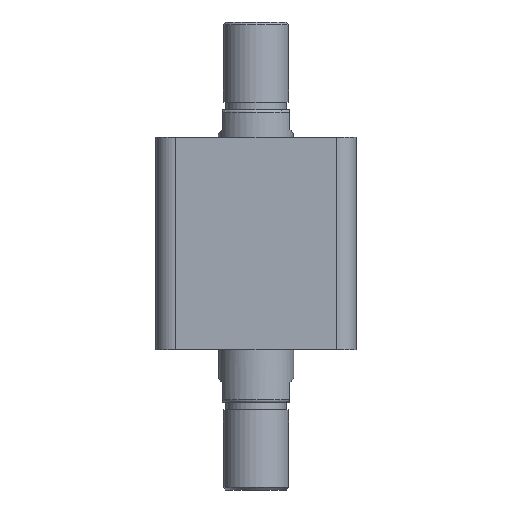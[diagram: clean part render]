
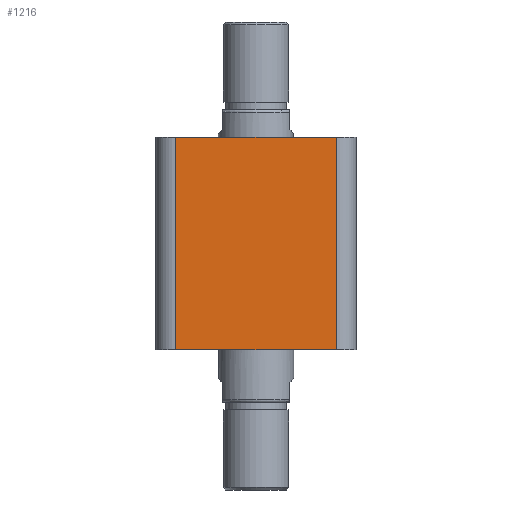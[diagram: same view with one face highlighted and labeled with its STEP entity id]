
A CAD part, front view. The second image highlights one B-rep face of the part: STEP entity #1216.
In plain terms, the highlighted planar face has unit normal (0, -1, 0).
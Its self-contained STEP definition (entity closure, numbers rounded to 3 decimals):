
#39 = EDGE_LOOP ( 'NONE', ( #3055, #3056, #3057, #3058 ) ) ;
#939 = CARTESIAN_POINT ( 'NONE',  ( 32., -40., 0. ) ) ;
#943 = CARTESIAN_POINT ( 'NONE',  ( -32., -40., 0. ) ) ;
#945 = CARTESIAN_POINT ( 'NONE',  ( 32., -40., 85. ) ) ;
#995 = CARTESIAN_POINT ( 'NONE',  ( -32., -40., 85. ) ) ;
#1216 = ADVANCED_FACE ( 'NONE', ( #2719 ), #1386, .F. ) ;
#1384 = CARTESIAN_POINT ( 'NONE',  ( -40., -40., 85. ) ) ;
#1386 = PLANE ( 'NONE',  #2239 ) ;
#1388 = DIRECTION ( 'NONE',  ( 0., 1., 0. ) ) ;
#1389 = DIRECTION ( 'NONE',  ( 0., 0., 1. ) ) ;
#1532 = CARTESIAN_POINT ( 'NONE',  ( -40., -40., 85. ) ) ;
#1533 = DIRECTION ( 'NONE',  ( 1., 0., 0. ) ) ;
#1534 = DIRECTION ( 'NONE',  ( 0., 0., -1. ) ) ;
#1535 = CARTESIAN_POINT ( 'NONE',  ( -32., -40., 85. ) ) ;
#1539 = CARTESIAN_POINT ( 'NONE',  ( -40., -40., 0. ) ) ;
#1543 = DIRECTION ( 'NONE',  ( 1., 0., 0. ) ) ;
#1544 = CARTESIAN_POINT ( 'NONE',  ( 32., -40., 85. ) ) ;
#1545 = DIRECTION ( 'NONE',  ( 0., 0., 1. ) ) ;
#1738 = EDGE_CURVE ( 'NONE', #3379, #3312, #2808, .T. ) ;
#1741 = EDGE_CURVE ( 'NONE', #3379, #3311, #2813, .T. ) ;
#1742 = EDGE_CURVE ( 'NONE', #3311, #3313, #2812, .T. ) ;
#1743 = EDGE_CURVE ( 'NONE', #3313, #3312, #2816, .T. ) ;
#2239 = AXIS2_PLACEMENT_3D ( 'NONE', #1384, #1388, #1389 ) ;
#2719 = FACE_OUTER_BOUND ( 'NONE', #39, .T. ) ;
#2808 = LINE ( 'NONE', #1532, #2811 ) ;
#2811 = VECTOR ( 'NONE', #1533, 1000. ) ;
#2812 = LINE ( 'NONE', #1539, #2817 ) ;
#2813 = LINE ( 'NONE', #1535, #2815 ) ;
#2815 = VECTOR ( 'NONE', #1534, 1000. ) ;
#2816 = LINE ( 'NONE', #1544, #2819 ) ;
#2817 = VECTOR ( 'NONE', #1543, 1000. ) ;
#2819 = VECTOR ( 'NONE', #1545, 1000. ) ;
#3055 = ORIENTED_EDGE ( 'NONE', *, *, #1738, .F. ) ;
#3056 = ORIENTED_EDGE ( 'NONE', *, *, #1741, .T. ) ;
#3057 = ORIENTED_EDGE ( 'NONE', *, *, #1742, .T. ) ;
#3058 = ORIENTED_EDGE ( 'NONE', *, *, #1743, .T. ) ;
#3311 = VERTEX_POINT ( 'NONE', #943 ) ;
#3312 = VERTEX_POINT ( 'NONE', #945 ) ;
#3313 = VERTEX_POINT ( 'NONE', #939 ) ;
#3379 = VERTEX_POINT ( 'NONE', #995 ) ;
